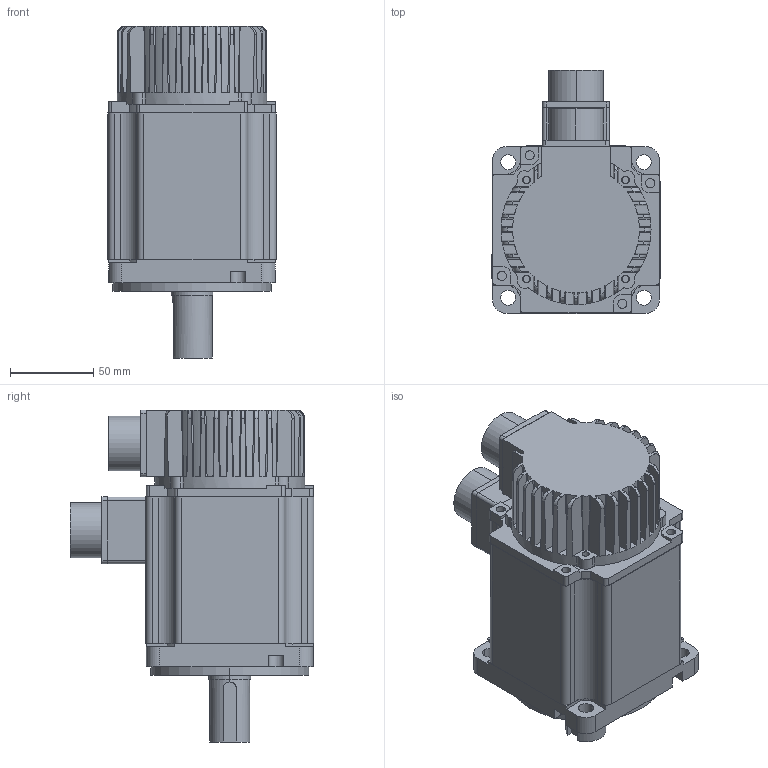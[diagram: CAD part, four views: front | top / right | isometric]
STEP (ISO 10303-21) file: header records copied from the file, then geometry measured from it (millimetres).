
FILE_DESCRIPTION (( 'STEP AP203' ), '1' );
FILE_NAME ('ACM10010L3F-70-L.STEP', '2023-03-14T05:06:02', ( '' ), ( '' ), 'SwSTEP 2.0', 'SolidWorks 2018', '' );
FILE_SCHEMA (( 'CONFIG_CONTROL_DESIGN' ));
Length unit declared in the file: millimetre
Products named in the file (7): 100儂褲04930; 130A諉盄釱-1; ACM10015L3F-70-L -壺賸ヶ裔; ACM10015L3F-70-L -ヶ裔; ACM10010L3F-70-L; YD28J7Z; YD28J4Z 
Assembly tree (6 placements, depth 2):
  ACM10010L3F-70-L
    100儂褲04930
    130A諉盄釱-1
    ACM10015L3F-70-L -ヶ裔
    ACM10015L3F-70-L -壺賸ヶ裔
    YD28J4Z 
    YD28J7Z
Bounding box: 100.8 x 146.1 x 199.2 mm (x, y, z)
Volume: 504930.3 mm3; surface area: 201442.3 mm2
Topology: 9 solids, 9 shells, 731 faces, 1946 edges, 1271 vertices
Faces by surface type: cylinder 359, plane 273, bspline 46, torus 23, sphere 22, cone 8
Entity records: 29133 total; most frequent: CARTESIAN_POINT 10530, ORIENTED_EDGE 3800, DIRECTION 3624, EDGE_CURVE 1900, AXIS2_PLACEMENT_3D 1409, VERTEX_POINT 1249, EDGE_LOOP 857, VECTOR 806
